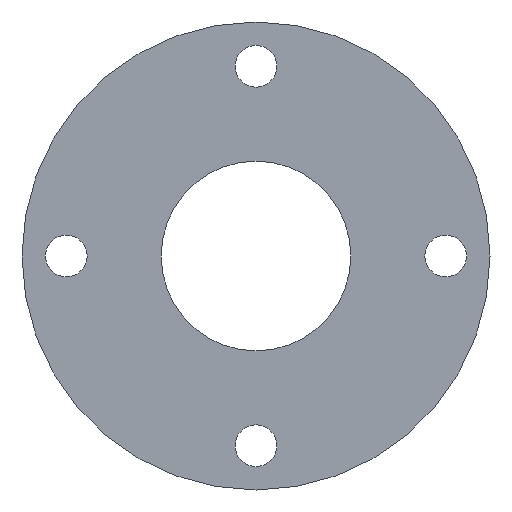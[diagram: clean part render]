
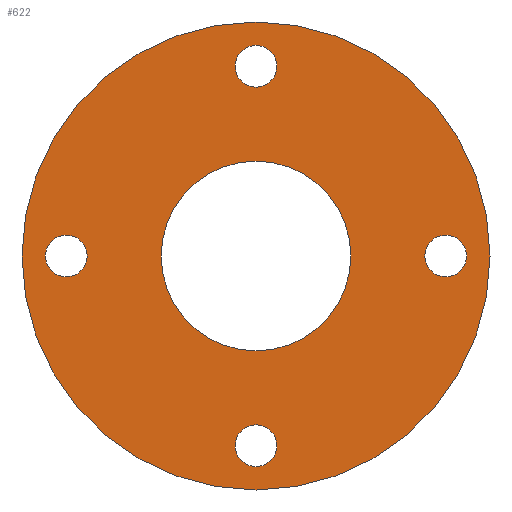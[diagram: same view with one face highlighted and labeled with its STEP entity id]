
A CAD part, front view. The second image highlights one B-rep face of the part: STEP entity #622.
In plain terms, the highlighted planar face has unit normal (0, -1, 0).
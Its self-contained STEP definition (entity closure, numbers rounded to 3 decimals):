
#9 = DIRECTION ( 'NONE',  ( 0., 1., 0. ) ) ;
#10 = ORIENTED_EDGE ( 'NONE', *, *, #683, .T. ) ;
#13 = ORIENTED_EDGE ( 'NONE', *, *, #565, .T. ) ;
#15 = AXIS2_PLACEMENT_3D ( 'NONE', #865, #9, #311 ) ;
#40 = DIRECTION ( 'NONE',  ( 0., 0., 1. ) ) ;
#42 = CARTESIAN_POINT ( 'NONE',  ( 0., 0., 30. ) ) ;
#43 = DIRECTION ( 'NONE',  ( 0., 0., 1. ) ) ;
#48 = AXIS2_PLACEMENT_3D ( 'NONE', #946, #189, #40 ) ;
#63 = CARTESIAN_POINT ( 'NONE',  ( 0., 0., -30. ) ) ;
#65 = DIRECTION ( 'NONE',  ( 0., -1., 0. ) ) ;
#66 = AXIS2_PLACEMENT_3D ( 'NONE', #63, #133, #433 ) ;
#82 = AXIS2_PLACEMENT_3D ( 'NONE', #296, #603, #844 ) ;
#109 = FACE_BOUND ( 'NONE', #299, .T. ) ;
#133 = DIRECTION ( 'NONE',  ( 0., 1., 0. ) ) ;
#135 = EDGE_CURVE ( 'NONE', #307, #584, #857, .T. ) ;
#137 = VERTEX_POINT ( 'NONE', #658 ) ;
#142 = DIRECTION ( 'NONE',  ( 0., 1., 0. ) ) ;
#147 = VERTEX_POINT ( 'NONE', #411 ) ;
#150 = VERTEX_POINT ( 'NONE', #715 ) ;
#162 = EDGE_LOOP ( 'NONE', ( #866, #13 ) ) ;
#167 = DIRECTION ( 'NONE',  ( 0., -1., 0. ) ) ;
#168 = EDGE_CURVE ( 'NONE', #137, #243, #500, .T. ) ;
#176 = VERTEX_POINT ( 'NONE', #977 ) ;
#178 = CARTESIAN_POINT ( 'NONE',  ( 0., 0., 37. ) ) ;
#180 = CARTESIAN_POINT ( 'NONE',  ( 30., 0., 3.3 ) ) ;
#189 = DIRECTION ( 'NONE',  ( 0., 1., 0. ) ) ;
#191 = CARTESIAN_POINT ( 'NONE',  ( 0., 0., 0. ) ) ;
#208 = ORIENTED_EDGE ( 'NONE', *, *, #881, .T. ) ;
#215 = CIRCLE ( 'NONE', #868, 15. ) ;
#238 = AXIS2_PLACEMENT_3D ( 'NONE', #42, #142, #522 ) ;
#241 = EDGE_CURVE ( 'NONE', #150, #968, #308, .T. ) ;
#243 = VERTEX_POINT ( 'NONE', #813 ) ;
#253 = AXIS2_PLACEMENT_3D ( 'NONE', #263, #882, #489 ) ;
#257 = DIRECTION ( 'NONE',  ( 0., 1., 0. ) ) ;
#260 = FACE_BOUND ( 'NONE', #162, .T. ) ;
#263 = CARTESIAN_POINT ( 'NONE',  ( 0., 0., 0. ) ) ;
#273 = AXIS2_PLACEMENT_3D ( 'NONE', #191, #796, #43 ) ;
#280 = VERTEX_POINT ( 'NONE', #741 ) ;
#295 = CIRCLE ( 'NONE', #82, 3.3 ) ;
#296 = CARTESIAN_POINT ( 'NONE',  ( 0., 0., 30. ) ) ;
#299 = EDGE_LOOP ( 'NONE', ( #855, #597 ) ) ;
#307 = VERTEX_POINT ( 'NONE', #941 ) ;
#308 = CIRCLE ( 'NONE', #840, 15. ) ;
#311 = DIRECTION ( 'NONE',  ( 0., 0., 1. ) ) ;
#328 = CARTESIAN_POINT ( 'NONE',  ( 0., 0., 0. ) ) ;
#336 = DIRECTION ( 'NONE',  ( 0., 0., 1. ) ) ;
#348 = AXIS2_PLACEMENT_3D ( 'NONE', #636, #632, #336 ) ;
#379 = EDGE_CURVE ( 'NONE', #147, #769, #899, .T. ) ;
#382 = ORIENTED_EDGE ( 'NONE', *, *, #644, .T. ) ;
#393 = EDGE_LOOP ( 'NONE', ( #10, #775 ) ) ;
#411 = CARTESIAN_POINT ( 'NONE',  ( 0., 0., -37. ) ) ;
#425 = DIRECTION ( 'NONE',  ( 0., 0., 1. ) ) ;
#431 = ORIENTED_EDGE ( 'NONE', *, *, #712, .T. ) ;
#433 = DIRECTION ( 'NONE',  ( 0., 0., 1. ) ) ;
#445 = CIRCLE ( 'NONE', #66, 3.3 ) ;
#465 = EDGE_CURVE ( 'NONE', #584, #307, #445, .T. ) ;
#474 = DIRECTION ( 'NONE',  ( 0., 0., 1. ) ) ;
#475 = AXIS2_PLACEMENT_3D ( 'NONE', #328, #545, #858 ) ;
#481 = ORIENTED_EDGE ( 'NONE', *, *, #135, .T. ) ;
#483 = CARTESIAN_POINT ( 'NONE',  ( -30., 0., 0. ) ) ;
#489 = DIRECTION ( 'NONE',  ( 1., 0., 0. ) ) ;
#500 = CIRCLE ( 'NONE', #238, 3.3 ) ;
#522 = DIRECTION ( 'NONE',  ( 0., 0., 1. ) ) ;
#535 = DIRECTION ( 'NONE',  ( 0., 1., 0. ) ) ;
#540 = CARTESIAN_POINT ( 'NONE',  ( 0., 0., 0. ) ) ;
#545 = DIRECTION ( 'NONE',  ( 0., -1., 0. ) ) ;
#549 = EDGE_LOOP ( 'NONE', ( #431, #382 ) ) ;
#559 = CIRCLE ( 'NONE', #48, 3.3 ) ;
#565 = EDGE_CURVE ( 'NONE', #243, #137, #295, .T. ) ;
#567 = FACE_OUTER_BOUND ( 'NONE', #631, .T. ) ;
#578 = CARTESIAN_POINT ( 'NONE',  ( 0., 0., -15. ) ) ;
#579 = CIRCLE ( 'NONE', #273, 37. ) ;
#584 = VERTEX_POINT ( 'NONE', #856 ) ;
#597 = ORIENTED_EDGE ( 'NONE', *, *, #241, .F. ) ;
#600 = VERTEX_POINT ( 'NONE', #800 ) ;
#603 = DIRECTION ( 'NONE',  ( 0., 1., 0. ) ) ;
#622 = ADVANCED_FACE ( 'NONE', ( #109, #647, #260, #721, #961, #567 ), #714, .F. ) ;
#629 = DIRECTION ( 'NONE',  ( 0., 0., -1. ) ) ;
#631 = EDGE_LOOP ( 'NONE', ( #208, #872 ) ) ;
#632 = DIRECTION ( 'NONE',  ( 0., 1., 0. ) ) ;
#636 = CARTESIAN_POINT ( 'NONE',  ( 30., 0., 0. ) ) ;
#644 = EDGE_CURVE ( 'NONE', #176, #666, #781, .T. ) ;
#647 = FACE_BOUND ( 'NONE', #393, .T. ) ;
#658 = CARTESIAN_POINT ( 'NONE',  ( 0., 0., 33.3 ) ) ;
#665 = DIRECTION ( 'NONE',  ( 0., 0., -1. ) ) ;
#666 = VERTEX_POINT ( 'NONE', #180 ) ;
#683 = EDGE_CURVE ( 'NONE', #280, #600, #559, .T. ) ;
#702 = CIRCLE ( 'NONE', #15, 3.3 ) ;
#712 = EDGE_CURVE ( 'NONE', #666, #176, #702, .T. ) ;
#714 = PLANE ( 'NONE',  #253 ) ;
#715 = CARTESIAN_POINT ( 'NONE',  ( 0., 0., 15. ) ) ;
#721 = FACE_BOUND ( 'NONE', #549, .T. ) ;
#735 = CIRCLE ( 'NONE', #884, 3.3 ) ;
#737 = CARTESIAN_POINT ( 'NONE',  ( 0., 0., 0. ) ) ;
#741 = CARTESIAN_POINT ( 'NONE',  ( -30., 0., 3.3 ) ) ;
#755 = ORIENTED_EDGE ( 'NONE', *, *, #465, .T. ) ;
#757 = EDGE_CURVE ( 'NONE', #968, #150, #215, .T. ) ;
#769 = VERTEX_POINT ( 'NONE', #178 ) ;
#775 = ORIENTED_EDGE ( 'NONE', *, *, #802, .T. ) ;
#781 = CIRCLE ( 'NONE', #348, 3.3 ) ;
#796 = DIRECTION ( 'NONE',  ( 0., -1., 0. ) ) ;
#800 = CARTESIAN_POINT ( 'NONE',  ( -30., 0., -3.3 ) ) ;
#802 = EDGE_CURVE ( 'NONE', #600, #280, #735, .T. ) ;
#804 = CARTESIAN_POINT ( 'NONE',  ( 0., 0., -30. ) ) ;
#813 = CARTESIAN_POINT ( 'NONE',  ( 0., 0., 26.7 ) ) ;
#840 = AXIS2_PLACEMENT_3D ( 'NONE', #737, #65, #665 ) ;
#844 = DIRECTION ( 'NONE',  ( 0., 0., 1. ) ) ;
#855 = ORIENTED_EDGE ( 'NONE', *, *, #757, .F. ) ;
#856 = CARTESIAN_POINT ( 'NONE',  ( 0., 0., -26.7 ) ) ;
#857 = CIRCLE ( 'NONE', #983, 3.3 ) ;
#858 = DIRECTION ( 'NONE',  ( 0., 0., 1. ) ) ;
#865 = CARTESIAN_POINT ( 'NONE',  ( 30., 0., 0. ) ) ;
#866 = ORIENTED_EDGE ( 'NONE', *, *, #168, .T. ) ;
#868 = AXIS2_PLACEMENT_3D ( 'NONE', #540, #167, #629 ) ;
#872 = ORIENTED_EDGE ( 'NONE', *, *, #379, .T. ) ;
#881 = EDGE_CURVE ( 'NONE', #769, #147, #579, .T. ) ;
#882 = DIRECTION ( 'NONE',  ( 0., 1., 0. ) ) ;
#884 = AXIS2_PLACEMENT_3D ( 'NONE', #483, #535, #474 ) ;
#893 = EDGE_LOOP ( 'NONE', ( #755, #481 ) ) ;
#899 = CIRCLE ( 'NONE', #475, 37. ) ;
#941 = CARTESIAN_POINT ( 'NONE',  ( 0., 0., -33.3 ) ) ;
#946 = CARTESIAN_POINT ( 'NONE',  ( -30., 0., 0. ) ) ;
#961 = FACE_BOUND ( 'NONE', #893, .T. ) ;
#968 = VERTEX_POINT ( 'NONE', #578 ) ;
#977 = CARTESIAN_POINT ( 'NONE',  ( 30., 0., -3.3 ) ) ;
#983 = AXIS2_PLACEMENT_3D ( 'NONE', #804, #257, #425 ) ;
